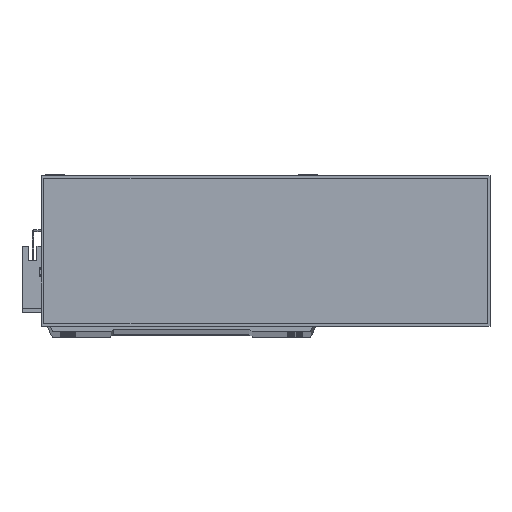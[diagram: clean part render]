
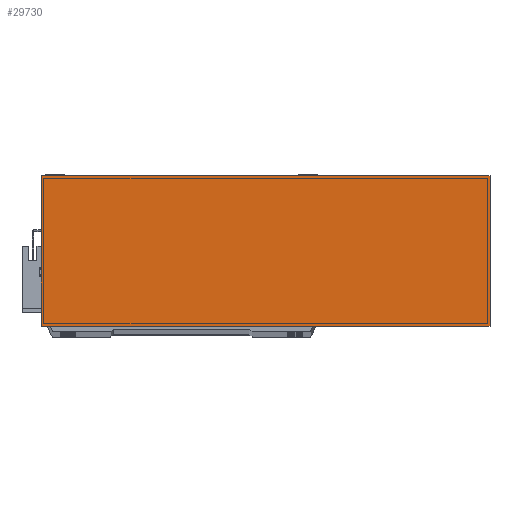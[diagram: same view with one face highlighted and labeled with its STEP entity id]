
A CAD part, top view. The second image highlights one B-rep face of the part: STEP entity #29730.
In plain terms, the highlighted planar face has unit normal (0, 0, 1).
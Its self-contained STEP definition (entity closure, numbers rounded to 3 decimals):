
#1412 = CARTESIAN_POINT ( 'NONE',  ( 0., 0., 50. ) ) ;
#1909 = VECTOR ( 'NONE', #27197, 1000. ) ;
#3290 = VERTEX_POINT ( 'NONE', #6948 ) ;
#6421 = PLANE ( 'NONE',  #28820 ) ;
#6948 = CARTESIAN_POINT ( 'NONE',  ( 277., 93., 50. ) ) ;
#7843 = CARTESIAN_POINT ( 'NONE',  ( 277., 0., 50. ) ) ;
#8916 = DIRECTION ( 'NONE',  ( -1., 0., 0. ) ) ;
#10400 = EDGE_LOOP ( 'NONE', ( #29635, #25588, #31461, #26384 ) ) ;
#12090 = DIRECTION ( 'NONE',  ( 1., 0., 0. ) ) ;
#12662 = VECTOR ( 'NONE', #24444, 1000. ) ;
#12765 = LINE ( 'NONE', #14830, #18388 ) ;
#14379 = FACE_OUTER_BOUND ( 'NONE', #10400, .T. ) ;
#14830 = CARTESIAN_POINT ( 'NONE',  ( 0., 0., 50. ) ) ;
#14887 = EDGE_CURVE ( 'NONE', #20158, #27066, #27660, .T. ) ;
#16902 = CARTESIAN_POINT ( 'NONE',  ( 0., 0., 50. ) ) ;
#17264 = DIRECTION ( 'NONE',  ( 0., -1., 0. ) ) ;
#18103 = CARTESIAN_POINT ( 'NONE',  ( 0., 93., 50. ) ) ;
#18388 = VECTOR ( 'NONE', #17264, 1000. ) ;
#19032 = LINE ( 'NONE', #29280, #12662 ) ;
#19094 = EDGE_CURVE ( 'NONE', #31117, #20158, #12765, .T. ) ;
#19176 = CARTESIAN_POINT ( 'NONE',  ( 0., 0., 50. ) ) ;
#20158 = VERTEX_POINT ( 'NONE', #19176 ) ;
#20527 = VECTOR ( 'NONE', #12090, 1000. ) ;
#22079 = LINE ( 'NONE', #24789, #1909 ) ;
#23325 = DIRECTION ( 'NONE',  ( 0., 0., -1. ) ) ;
#24444 = DIRECTION ( 'NONE',  ( 0., 1., 0. ) ) ;
#24789 = CARTESIAN_POINT ( 'NONE',  ( 0., 93., 50. ) ) ;
#25531 = EDGE_CURVE ( 'NONE', #27066, #3290, #19032, .T. ) ;
#25588 = ORIENTED_EDGE ( 'NONE', *, *, #14887, .T. ) ;
#26384 = ORIENTED_EDGE ( 'NONE', *, *, #27112, .T. ) ;
#27066 = VERTEX_POINT ( 'NONE', #7843 ) ;
#27112 = EDGE_CURVE ( 'NONE', #3290, #31117, #22079, .T. ) ;
#27197 = DIRECTION ( 'NONE',  ( -1., 0., 0. ) ) ;
#27660 = LINE ( 'NONE', #16902, #20527 ) ;
#28820 = AXIS2_PLACEMENT_3D ( 'NONE', #1412, #23325, #8916 ) ;
#29280 = CARTESIAN_POINT ( 'NONE',  ( 277., 0., 50. ) ) ;
#29635 = ORIENTED_EDGE ( 'NONE', *, *, #19094, .T. ) ;
#29730 = ADVANCED_FACE ( 'NONE', ( #14379 ), #6421, .F. ) ;
#31117 = VERTEX_POINT ( 'NONE', #18103 ) ;
#31461 = ORIENTED_EDGE ( 'NONE', *, *, #25531, .T. ) ;
